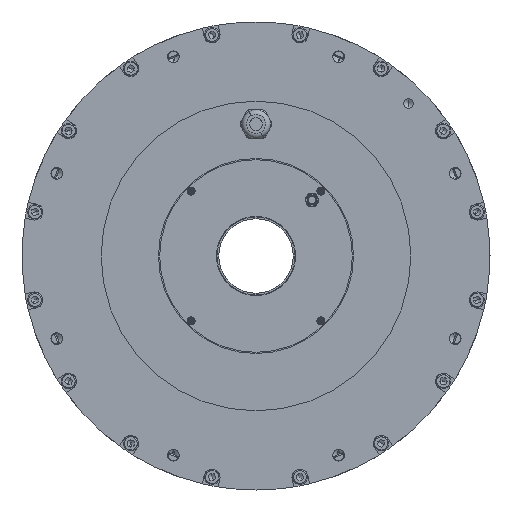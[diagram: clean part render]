
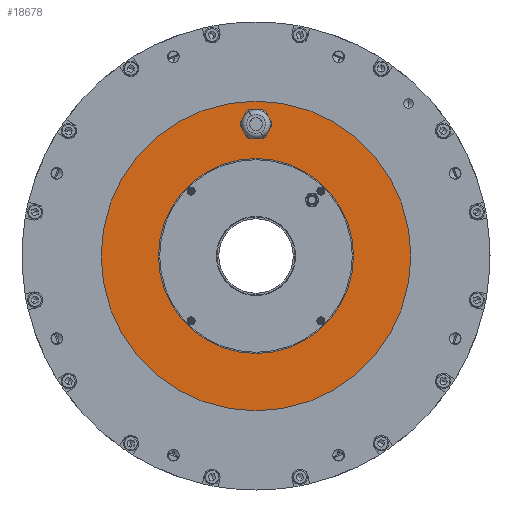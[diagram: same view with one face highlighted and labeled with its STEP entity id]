
A CAD part, front view. The second image highlights one B-rep face of the part: STEP entity #18678.
In plain terms, the highlighted planar face has unit normal (0, -1, 0).
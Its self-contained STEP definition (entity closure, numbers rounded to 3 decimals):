
#639 = CARTESIAN_POINT ( 'NONE',  ( 0., -76.4, 0. ) ) ;
#664 = CIRCLE ( 'NONE', #37460, 135. ) ;
#757 = CARTESIAN_POINT ( 'NONE',  ( 0., -76.4, 115. ) ) ;
#831 = CARTESIAN_POINT ( 'NONE',  ( 0., -76.4, 124.25 ) ) ;
#1217 = AXIS2_PLACEMENT_3D ( 'NONE', #14435, #2687, #21622 ) ;
#1719 = AXIS2_PLACEMENT_3D ( 'NONE', #23302, #38670, #15327 ) ;
#2687 = DIRECTION ( 'NONE',  ( 0., 1., 0. ) ) ;
#2889 = EDGE_CURVE ( 'NONE', #28825, #9907, #4528, .T. ) ;
#3558 = PLANE ( 'NONE',  #43334 ) ;
#4528 = CIRCLE ( 'NONE', #44567, 9.25 ) ;
#5299 = VERTEX_POINT ( 'NONE', #26100 ) ;
#5514 = DIRECTION ( 'NONE',  ( 0., -1., 0. ) ) ;
#7450 = DIRECTION ( 'NONE',  ( 0., 0., 1. ) ) ;
#8494 = ORIENTED_EDGE ( 'NONE', *, *, #44693, .T. ) ;
#8622 = CARTESIAN_POINT ( 'NONE',  ( 0., -76.4, 135. ) ) ;
#9083 = ORIENTED_EDGE ( 'NONE', *, *, #2889, .T. ) ;
#9907 = VERTEX_POINT ( 'NONE', #831 ) ;
#11669 = EDGE_CURVE ( 'NONE', #5299, #49645, #33577, .T. ) ;
#11700 = EDGE_LOOP ( 'NONE', ( #45358, #16176 ) ) ;
#14435 = CARTESIAN_POINT ( 'NONE',  ( 0., -76.4, 115. ) ) ;
#14903 = AXIS2_PLACEMENT_3D ( 'NONE', #639, #32127, #19851 ) ;
#15028 = FACE_BOUND ( 'NONE', #33615, .T. ) ;
#15327 = DIRECTION ( 'NONE',  ( 0., 0., -1. ) ) ;
#15509 = DIRECTION ( 'NONE',  ( 0., 0., -1. ) ) ;
#15689 = CIRCLE ( 'NONE', #14903, 135. ) ;
#16176 = ORIENTED_EDGE ( 'NONE', *, *, #24185, .F. ) ;
#18678 = ADVANCED_FACE ( 'NONE', ( #31157, #15028, #34510 ), #3558, .T. ) ;
#19851 = DIRECTION ( 'NONE',  ( 0., 0., -1. ) ) ;
#19893 = DIRECTION ( 'NONE',  ( 0., -1., 0. ) ) ;
#21622 = DIRECTION ( 'NONE',  ( 0., 0., 1. ) ) ;
#23302 = CARTESIAN_POINT ( 'NONE',  ( 0., -76.4, 0. ) ) ;
#23976 = CARTESIAN_POINT ( 'NONE',  ( 0., -76.4, 85. ) ) ;
#24185 = EDGE_CURVE ( 'NONE', #49645, #5299, #37024, .T. ) ;
#25361 = CARTESIAN_POINT ( 'NONE',  ( 0., -76.4, 105.75 ) ) ;
#26100 = CARTESIAN_POINT ( 'NONE',  ( 0., -76.4, -85. ) ) ;
#26125 = ORIENTED_EDGE ( 'NONE', *, *, #46266, .T. ) ;
#26270 = AXIS2_PLACEMENT_3D ( 'NONE', #43909, #5514, #36745 ) ;
#27616 = CARTESIAN_POINT ( 'NONE',  ( 0., -76.4, -135. ) ) ;
#28825 = VERTEX_POINT ( 'NONE', #25361 ) ;
#28989 = CARTESIAN_POINT ( 'NONE',  ( 0., -76.4, 0. ) ) ;
#31157 = FACE_BOUND ( 'NONE', #11700, .T. ) ;
#32127 = DIRECTION ( 'NONE',  ( 0., -1., 0. ) ) ;
#32832 = DIRECTION ( 'NONE',  ( 0., -1., 0. ) ) ;
#33519 = VERTEX_POINT ( 'NONE', #8622 ) ;
#33577 = CIRCLE ( 'NONE', #1719, 85. ) ;
#33615 = EDGE_LOOP ( 'NONE', ( #8494, #9083 ) ) ;
#34510 = FACE_OUTER_BOUND ( 'NONE', #38948, .T. ) ;
#35281 = ORIENTED_EDGE ( 'NONE', *, *, #42300, .T. ) ;
#35562 = CIRCLE ( 'NONE', #1217, 9.25 ) ;
#36745 = DIRECTION ( 'NONE',  ( 0., 0., -1. ) ) ;
#37024 = CIRCLE ( 'NONE', #26270, 85. ) ;
#37460 = AXIS2_PLACEMENT_3D ( 'NONE', #28989, #32832, #48685 ) ;
#38608 = CARTESIAN_POINT ( 'NONE',  ( 0., -76.4, 0. ) ) ;
#38670 = DIRECTION ( 'NONE',  ( 0., -1., 0. ) ) ;
#38948 = EDGE_LOOP ( 'NONE', ( #35281, #26125 ) ) ;
#42300 = EDGE_CURVE ( 'NONE', #33519, #49098, #15689, .T. ) ;
#42525 = DIRECTION ( 'NONE',  ( 0., 1., 0. ) ) ;
#43334 = AXIS2_PLACEMENT_3D ( 'NONE', #38608, #19893, #15509 ) ;
#43909 = CARTESIAN_POINT ( 'NONE',  ( 0., -76.4, 0. ) ) ;
#44567 = AXIS2_PLACEMENT_3D ( 'NONE', #757, #42525, #7450 ) ;
#44693 = EDGE_CURVE ( 'NONE', #9907, #28825, #35562, .T. ) ;
#45358 = ORIENTED_EDGE ( 'NONE', *, *, #11669, .F. ) ;
#46266 = EDGE_CURVE ( 'NONE', #49098, #33519, #664, .T. ) ;
#48685 = DIRECTION ( 'NONE',  ( 0., 0., -1. ) ) ;
#49098 = VERTEX_POINT ( 'NONE', #27616 ) ;
#49645 = VERTEX_POINT ( 'NONE', #23976 ) ;
